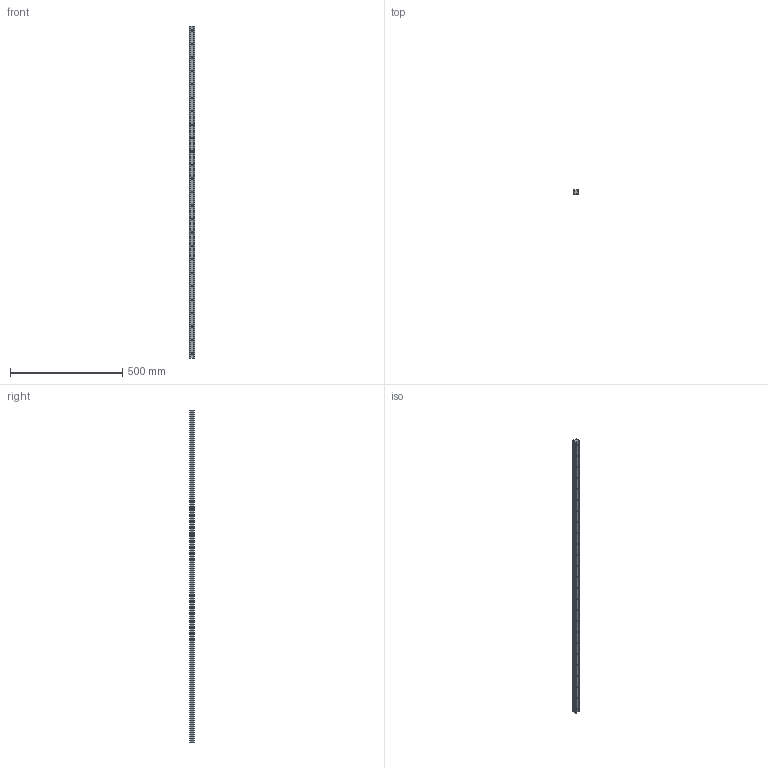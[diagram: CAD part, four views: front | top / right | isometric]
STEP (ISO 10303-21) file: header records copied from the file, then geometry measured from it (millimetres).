
FILE_DESCRIPTION (( 'STEP AP203' ), '1' );
FILE_NAME ('L1016.BRF25-1480.step', '2019-06-13T08:38:26', ( '' ), ( '' ), 'SwSTEP 2.0', 'SolidWorks 2017', '' );
FILE_SCHEMA (( 'CONFIG_CONTROL_DESIGN' ));
Length unit declared in the file: millimetre
Products named in the file (1): L1016.BRF25-1480
Bounding box: 23 x 19.2 x 1480 mm (x, y, z)
Volume: 565002.3 mm3; surface area: 136629.6 mm2
Topology: 1 solids, 1 shells, 201 faces, 472 edges, 273 vertices
Faces by surface type: cylinder 104, cone 50, plane 47
Entity records: 5501 total; most frequent: DIRECTION 1034, CARTESIAN_POINT 897, ORIENTED_EDGE 844, EDGE_CURVE 422, AXIS2_PLACEMENT_3D 410, VERTEX_POINT 273, EDGE_LOOP 251, LINE 214
